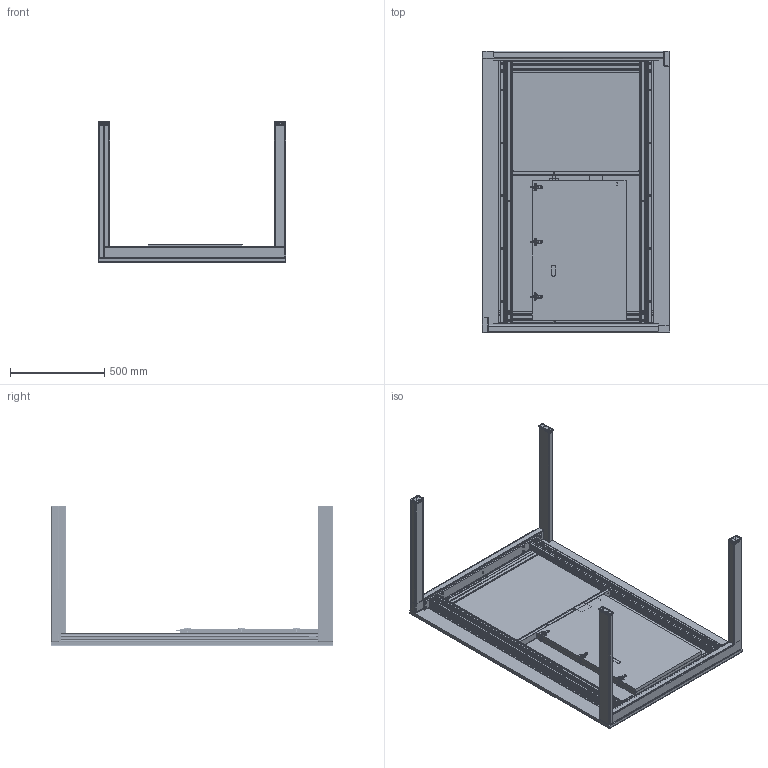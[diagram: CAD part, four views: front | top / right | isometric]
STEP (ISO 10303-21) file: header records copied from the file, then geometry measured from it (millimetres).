
FILE_DESCRIPTION (( 'STEP AP203' ), '1' );
FILE_NAME ('T allungami Grès L150.STEP', '2026-10-06T13:23:54', ( '' ), ( '' ), 'SwSTEP 2.0', 'SolidWorks 2023', '' );
FILE_SCHEMA (( 'CONFIG_CONTROL_DESIGN' ));
Length unit declared in the file: millimetre
Products named in the file (37): 0008e34_Coulisse Atim - Allungami L150 - axe allonge; 0009110_ 060 - Coulisse Atim - Allungami L150 - brin mobile droit ; 0009361_010-Plateau grès foncé L150; 000a0df_Charnière grès pliée; 0009132_Coulisse Atim - cache B; 00092f7_Coulisse Atim - vis liaison entretoise; 0009612_Atim - frein (3); 000913a_010 - Coulisse Atim - Allungami 2 brins - plat fixe; 000960e_Atim - dôme de réglage ; 00092d3_010 - Coulisse Atim - Allungami L150 - câle oméga ; 0009613_Atim - frein; T allungami Grès L150; 000930b_Coulisse Atim - vis brin+noix jonction; 000952f; 000912b_020 - Coulisse Allungami L150 fermée; 000913a_020 - Coulisse Atim - Allungami 2 brins - plat mobile; 0009309_Coulisse Atim - noix de jonction; 000960d_Atim - dôme de réglage (3); 0009611_Atim - frein (2); 000930a_Coulisse Atim - vis plat + noix jonction; 000952d; 000915d_010 - Coulisse Atim - Allungami L150 - oméga ; 000fedf_010-Allonge L75 Fenix noir + stratifié lisse - Droite; 0009110_010 - Coulisse Atim - Allungami L150 - brin fixe gauche ; 000952e; 0009610_Atim - frein (1); 0009530_010 - ; 0009110_050 - Coulisse Atim - Allungami L150 - brin mobile gauche ; 0009159_010 - Coulisse Atim - 2 brins - entretoise; 00092d2_Coulisse Atim - plôt réglage axe allonges; 0009262_pied perle Allungami; 0009124_Coulisse Atim - cache A; 00095e5_090- Plateau support grès L1492 ; 0009110_020 - Coulisse Atim - Allungami L150 - brin fixe droit ; 000960b_Atim - dôme de réglage (1); 000960c_Atim - dôme de réglage (2); 000fee1_010-Allonge L75 Fenix noir + stratifié lisse - Gauche
Assembly tree (66 placements, depth 4):
  T allungami Grès L150
    000fedf_010-Allonge L75 Fenix noir + stratifié lisse - Droite
    000fee1_010-Allonge L75 Fenix noir + stratifié lisse - Gauche
    000912b_020 - Coulisse Allungami L150 fermée
      0009110_020 - Coulisse Atim - Allungami L150 - brin fixe droit 
      0009110_050 - Coulisse Atim - Allungami L150 - brin mobile gauche 
      0009124_Coulisse Atim - cache A  x3
      0009132_Coulisse Atim - cache B  x3
      0009110_ 060 - Coulisse Atim - Allungami L150 - brin mobile droit 
      000913a_020 - Coulisse Atim - Allungami 2 brins - plat mobile
      000913a_010 - Coulisse Atim - Allungami 2 brins - plat fixe
      0009110_010 - Coulisse Atim - Allungami L150 - brin fixe gauche 
      0009159_010 - Coulisse Atim - 2 brins - entretoise
      0008e34_Coulisse Atim - Allungami L150 - axe allonge
      00092d2_Coulisse Atim - plôt réglage axe allonges
      00092f7_Coulisse Atim - vis liaison entretoise  x2
      0009309_Coulisse Atim - noix de jonction  x4
      000930b_Coulisse Atim - vis brin+noix jonction  x8
      000930a_Coulisse Atim - vis plat + noix jonction  x8
      000915d_010 - Coulisse Atim - Allungami L150 - oméga 
      00092d3_010 - Coulisse Atim - Allungami L150 - câle oméga 
      0009530_010 - 
        000952d
        000952e
        000952f
      000960e_Atim - dôme de réglage   x4
        000960d_Atim - dôme de réglage (3)
        000960c_Atim - dôme de réglage (2)
        000960b_Atim - dôme de réglage (1)
      0009613_Atim - frein  x2
        0009611_Atim - frein (2)
        0009610_Atim - frein (1)
        0009612_Atim - frein (3)
    000a0df_Charnière grès pliée  x3
    0009262_pied perle Allungami  x3
    00095e5_090- Plateau support grès L1492 
    0009361_010-Plateau grès foncé L150
Bounding box: 994 x 1494 x 742.5 mm (x, y, z)
Volume: 52023206.7 mm3; surface area: 13407619.2 mm2
Topology: 94 solids, 94 shells, 7061 faces, 17981 edges, 11148 vertices
Faces by surface type: cylinder 3273, plane 2203, cone 670, torus 426, bspline 349, sphere 140
Entity records: 119810 total; most frequent: CARTESIAN_POINT 25642, DIRECTION 19536, ORIENTED_EDGE 18602, EDGE_CURVE 9301, AXIS2_PLACEMENT_3D 7524, VERTEX_POINT 5945, VECTOR 4488, LINE 4488
